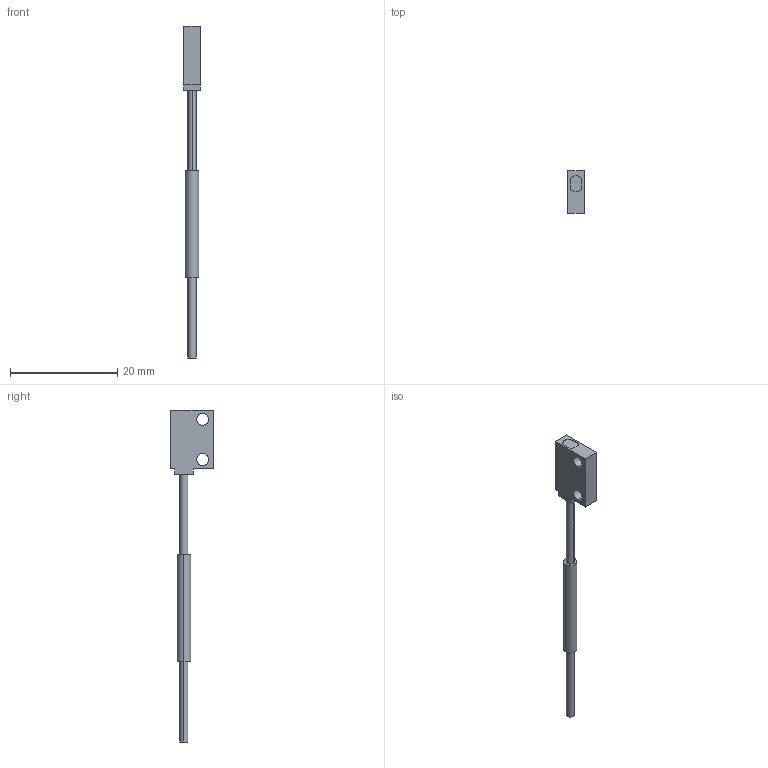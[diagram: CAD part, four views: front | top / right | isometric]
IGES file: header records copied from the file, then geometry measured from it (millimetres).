
Start section: SolidWorks IGES FILE using analytic representation for surfaces
Global section: file name: \\intra-srv04\開発データ\CAD_Data\CAD委員会\3D電子ｶﾀﾛｸﾞ\製品カタログ（新）\0_IGES\FT-WZ8H.IGS,41HSolidWorks 2004; native system: by SolidWorks Corporation; preprocessor: Version 5.3; author: mf1158; date: 050908.113431; units: millimetre
Bounding box: 3 x 8 x 62 mm (x, y, z)
Volume: 402 mm3; surface area: 638.2 mm2
Topology: 2 solids, 2 shells, 30 faces, 69 edges, 46 vertices
Faces by surface type: plane 17, revolution 13
